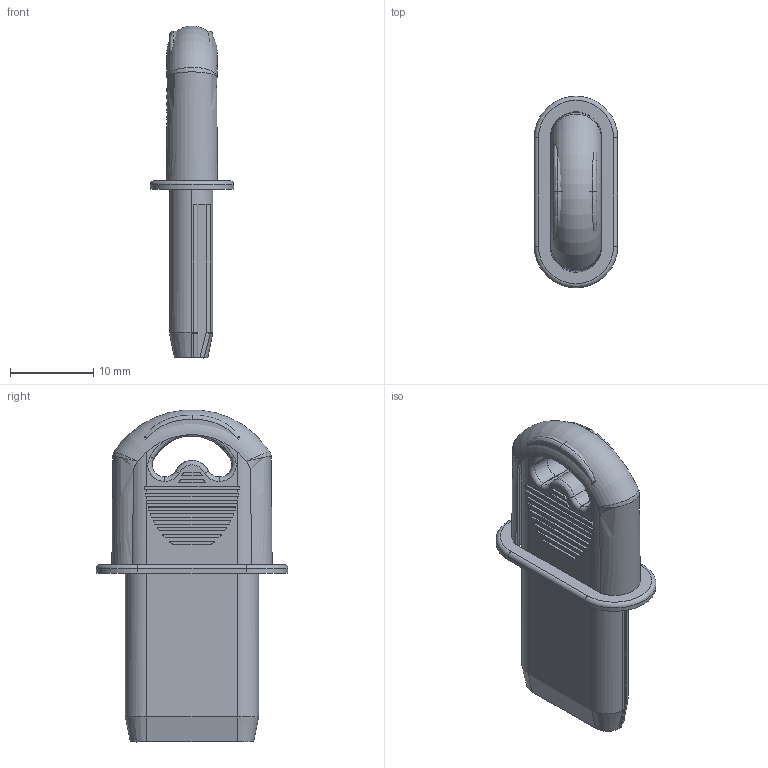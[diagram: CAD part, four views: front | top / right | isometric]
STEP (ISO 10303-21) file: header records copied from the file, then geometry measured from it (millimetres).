
FILE_DESCRIPTION((''),'2;1');
FILE_NAME('PK-SEQ-SK-A-LOGISTICK','2006-12-19T',('summne01'),(''),'PRO/ENGINEER BY PARAMETRIC TECHNOLOGY CORPORATION, 2006320','PRO/ENGINEER BY PARAMETRIC TECHNOLOGY CORPORATION, 2006320','');
FILE_SCHEMA(('CONFIG_CONTROL_DESIGN'));
Length unit declared in the file: millimetre
Products named in the file (1): PK-SEQ-SK-A-LOGISTICK
Bounding box: 10 x 23 x 39.82 mm (x, y, z)
Volume: 577.3 mm3; surface area: 2755 mm2
Topology: 1 solids, 3 shells, 277 faces, 762 edges, 491 vertices
Faces by surface type: plane 140, cone 56, bspline 34, cylinder 30, torus 11, sphere 4, extrusion 2
Entity records: 11437 total; most frequent: CARTESIAN_POINT 4758, ORIENTED_EDGE 1416, DIRECTION 1241, EDGE_CURVE 762, VERTEX_POINT 491, AXIS2_PLACEMENT_3D 415, VECTOR 411, LINE 409
